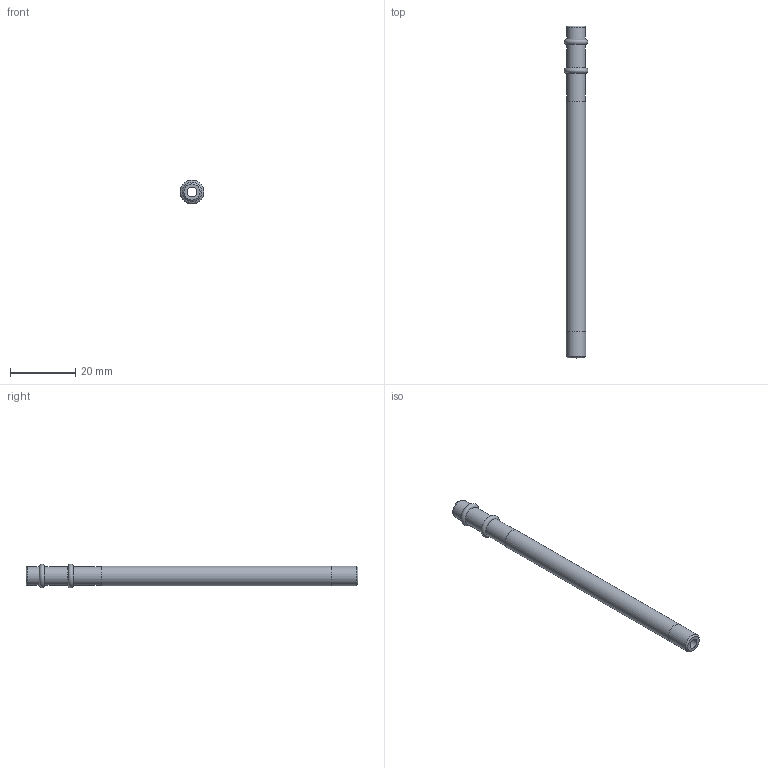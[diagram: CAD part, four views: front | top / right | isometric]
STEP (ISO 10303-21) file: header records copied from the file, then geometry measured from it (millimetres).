
FILE_DESCRIPTION(/* description */ (''),/* implementation_level */ '2;1');
FILE_NAME(/* name */ 'C:/Users/drich/Desktop/cad/Cascades/Jet Cool/Components/Outer Tubes/O-Ring Type/JCT-M6-OR- v1.step',/* time_stamp */ '2020-01-10T15:16:49-06:00',/* author */ (''),/* organization */ (''),/* preprocessor_version */ 'ST-DEVELOPER v18',/* originating_system */ 'Autodesk Translation Framework v8.12.0.6',/* authorisation */ '');
FILE_SCHEMA (('AUTOMOTIVE_DESIGN { 1 0 10303 214 3 1 1 }'));
Length unit declared in the file: inch
Products named in the file (1): JCT-M6-OR-
Bounding box: 7.29 x 101.6 x 7.29 mm (x, y, z)
Volume: 2122.5 mm3; surface area: 3090.1 mm2
Topology: 3 solids, 3 shells, 21 faces, 52 edges, 39 vertices
Faces by surface type: cylinder 8, plane 8, torus 4, cone 1
Full cylindrical faces by diameter (mm): 2.997 x1, 4.241 x2, 5.791 x3, 5.944 x1, 5.994 x1
Entity records: 732 total; most frequent: DIRECTION 139, CARTESIAN_POINT 113, ORIENTED_EDGE 104, AXIS2_PLACEMENT_3D 65, EDGE_CURVE 52, CIRCLE 43, VERTEX_POINT 39, EDGE_LOOP 29
